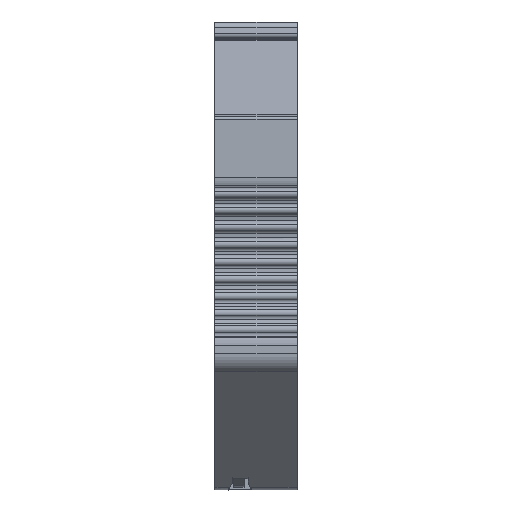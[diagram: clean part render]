
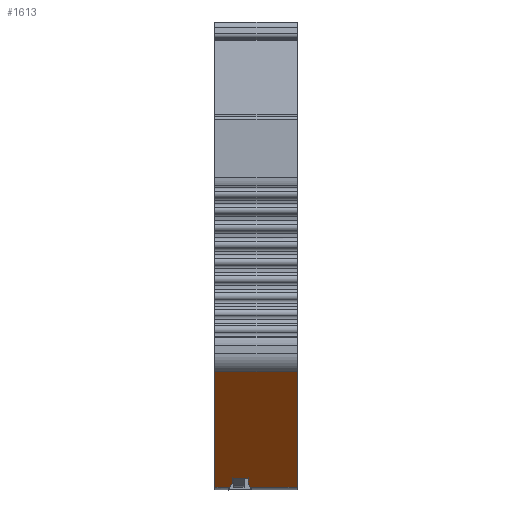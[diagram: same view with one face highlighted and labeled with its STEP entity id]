
A CAD part, left-side view. The second image highlights one B-rep face of the part: STEP entity #1613.
In plain terms, the highlighted planar face has unit normal (-0.446, 0, -0.895).
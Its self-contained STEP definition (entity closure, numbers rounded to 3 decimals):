
#1613=ADVANCED_FACE('',(#3401),#2663,.F.);
#2663=PLANE('',#21930);
#3401=FACE_OUTER_BOUND('',#4510,.T.);
#4510=EDGE_LOOP('',(#6855,#6856,#6857,#6858,#6859,#6860,#6861,#6862,#6863,
#6864));
#6855=ORIENTED_EDGE('',*,*,#14771,.T.);
#6856=ORIENTED_EDGE('',*,*,#14704,.F.);
#6857=ORIENTED_EDGE('',*,*,#14772,.T.);
#6858=ORIENTED_EDGE('',*,*,#14694,.F.);
#6859=ORIENTED_EDGE('',*,*,#14773,.T.);
#6860=ORIENTED_EDGE('',*,*,#14774,.F.);
#6861=ORIENTED_EDGE('',*,*,#14396,.F.);
#6862=ORIENTED_EDGE('',*,*,#14775,.F.);
#6863=ORIENTED_EDGE('',*,*,#14036,.F.);
#6864=ORIENTED_EDGE('',*,*,#14770,.F.);
#11940=VERTEX_POINT('',#29683);
#11941=VERTEX_POINT('',#29685);
#12273=VERTEX_POINT('',#30419);
#12274=VERTEX_POINT('',#30421);
#12507=VERTEX_POINT('',#31033);
#12508=VERTEX_POINT('',#31035);
#12515=VERTEX_POINT('',#31053);
#12516=VERTEX_POINT('',#31055);
#12551=VERTEX_POINT('',#31192);
#12552=VERTEX_POINT('',#31198);
#14036=EDGE_CURVE('',#11940,#11941,#17091,.T.);
#14396=EDGE_CURVE('',#12273,#12274,#17286,.T.);
#14694=EDGE_CURVE('',#12507,#12508,#17473,.T.);
#14704=EDGE_CURVE('',#12515,#12516,#17477,.T.);
#14770=EDGE_CURVE('',#12551,#11940,#17531,.T.);
#14771=EDGE_CURVE('',#12551,#12516,#17532,.T.);
#14772=EDGE_CURVE('',#12515,#12508,#17533,.T.);
#14773=EDGE_CURVE('',#12507,#12552,#17534,.T.);
#14774=EDGE_CURVE('',#12274,#12552,#17535,.T.);
#14775=EDGE_CURVE('',#11941,#12273,#17536,.T.);
#17091=LINE('',#29684,#19326);
#17286=LINE('',#30420,#19521);
#17473=LINE('',#31034,#19708);
#17477=LINE('',#31054,#19712);
#17531=LINE('',#31193,#19766);
#17532=LINE('',#31195,#19767);
#17533=LINE('',#31196,#19768);
#17534=LINE('',#31197,#19769);
#17535=LINE('',#31199,#19770);
#17536=LINE('',#31200,#19771);
#19326=VECTOR('',#23626,1.);
#19521=VECTOR('',#24203,1.);
#19708=VECTOR('',#24728,1.);
#19712=VECTOR('',#24748,1.);
#19766=VECTOR('',#24876,1.);
#19767=VECTOR('',#24879,1.);
#19768=VECTOR('',#24880,1.);
#19769=VECTOR('',#24881,1.);
#19770=VECTOR('',#24882,1.);
#19771=VECTOR('',#24883,1.);
#21930=AXIS2_PLACEMENT_3D('',#31201,#24884,#24885);
#23626=DIRECTION('',(-0.895,0.,0.446));
#24203=DIRECTION('',(0.895,0.,-0.446));
#24728=DIRECTION('',(-0.895,0.,0.446));
#24748=DIRECTION('',(0.895,0.,-0.446));
#24876=DIRECTION('',(0.,1.,0.));
#24879=DIRECTION('',(-0.865,-0.259,0.431));
#24880=DIRECTION('',(0.,-1.,0.));
#24881=DIRECTION('',(0.865,-0.259,-0.431));
#24882=DIRECTION('',(0.,1.,0.));
#24883=DIRECTION('',(0.,-1.,0.));
#24884=DIRECTION('',(0.446,0.,0.895));
#24885=DIRECTION('',(0.,1.,0.));
#29683=CARTESIAN_POINT('',(-57.592,0.,0.21));
#29684=CARTESIAN_POINT('',(-57.592,0.,0.21));
#29685=CARTESIAN_POINT('',(-75.069,0.,8.922));
#30419=CARTESIAN_POINT('',(-75.069,-6.2,8.922));
#30420=CARTESIAN_POINT('',(-75.069,-6.2,8.922));
#30421=CARTESIAN_POINT('',(-57.592,-6.2,0.21));
#31033=CARTESIAN_POINT('',(-58.174,-2.5,0.5));
#31034=CARTESIAN_POINT('',(-58.174,-2.5,0.5));
#31035=CARTESIAN_POINT('',(-58.9,-2.5,0.862));
#31053=CARTESIAN_POINT('',(-58.9,-1.3,0.862));
#31054=CARTESIAN_POINT('',(-58.9,-1.3,0.862));
#31055=CARTESIAN_POINT('',(-58.174,-1.3,0.5));
#31192=CARTESIAN_POINT('',(-57.592,-1.126,0.21));
#31193=CARTESIAN_POINT('',(-57.592,-1.126,0.21));
#31195=CARTESIAN_POINT('',(-57.592,-1.126,0.21));
#31196=CARTESIAN_POINT('',(-58.9,-1.3,0.862));
#31197=CARTESIAN_POINT('',(-58.174,-2.5,0.5));
#31198=CARTESIAN_POINT('',(-57.592,-2.674,0.21));
#31199=CARTESIAN_POINT('',(-57.592,-6.2,0.21));
#31200=CARTESIAN_POINT('',(-75.069,0.,8.922));
#31201=CARTESIAN_POINT('',(-66.331,-3.1,4.566));
